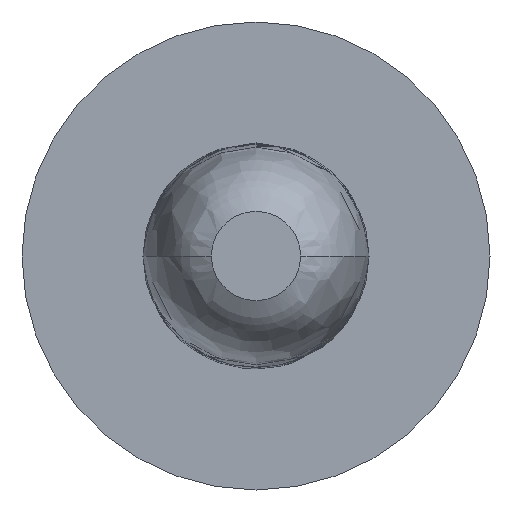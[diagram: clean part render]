
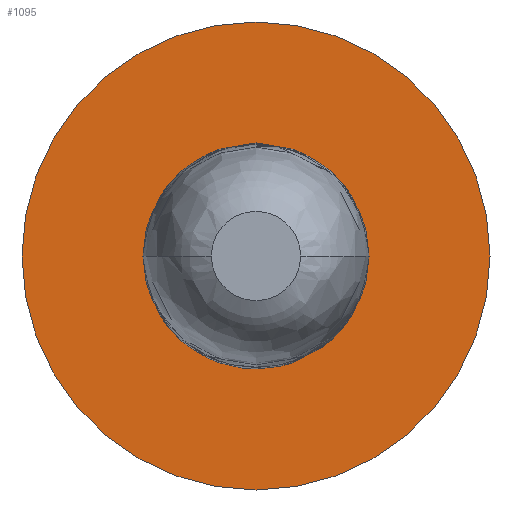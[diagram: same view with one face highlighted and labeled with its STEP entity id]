
A CAD part, front view. The second image highlights one B-rep face of the part: STEP entity #1095.
In plain terms, the highlighted planar face has unit normal (0, -1, 0).
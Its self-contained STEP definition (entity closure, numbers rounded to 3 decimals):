
#21 = ORIENTED_EDGE ( 'NONE', *, *, #490, .F. ) ;
#102 = EDGE_LOOP ( 'NONE', ( #21, #370 ) ) ;
#119 = DIRECTION ( 'NONE',  ( 0., -1., 0. ) ) ;
#124 = CARTESIAN_POINT ( 'NONE',  ( 875.943, 480.621, 0. ) ) ;
#181 = AXIS2_PLACEMENT_3D ( 'NONE', #979, #483, #361 ) ;
#216 = VERTEX_POINT ( 'NONE', #250 ) ;
#250 = CARTESIAN_POINT ( 'NONE',  ( 875.943, 480.621, 210. ) ) ;
#299 = EDGE_CURVE ( 'NONE', #216, #1171, #1203, .T. ) ;
#335 = VERTEX_POINT ( 'NONE', #628 ) ;
#361 = DIRECTION ( 'NONE',  ( 0., 0., -1. ) ) ;
#370 = ORIENTED_EDGE ( 'NONE', *, *, #1437, .F. ) ;
#387 = DIRECTION ( 'NONE',  ( 0., 0., -1. ) ) ;
#398 = AXIS2_PLACEMENT_3D ( 'NONE', #726, #119, #1236 ) ;
#403 = EDGE_CURVE ( 'NONE', #1171, #216, #1140, .T. ) ;
#483 = DIRECTION ( 'NONE',  ( 0., -1., 0. ) ) ;
#490 = EDGE_CURVE ( 'NONE', #1466, #335, #1602, .T. ) ;
#588 = EDGE_LOOP ( 'NONE', ( #847, #619 ) ) ;
#619 = ORIENTED_EDGE ( 'NONE', *, *, #299, .T. ) ;
#623 = DIRECTION ( 'NONE',  ( 0., -1., 0. ) ) ;
#628 = CARTESIAN_POINT ( 'NONE',  ( 875.943, 480.621, 10. ) ) ;
#652 = DIRECTION ( 'NONE',  ( 0., 0., -1. ) ) ;
#726 = CARTESIAN_POINT ( 'NONE',  ( 875.943, 480.621, 0. ) ) ;
#774 = FACE_OUTER_BOUND ( 'NONE', #588, .T. ) ;
#847 = ORIENTED_EDGE ( 'NONE', *, *, #403, .T. ) ;
#859 = CARTESIAN_POINT ( 'NONE',  ( 875.943, 480.621, -10. ) ) ;
#860 = PLANE ( 'NONE',  #181 ) ;
#946 = CARTESIAN_POINT ( 'NONE',  ( 875.943, 480.621, -210. ) ) ;
#979 = CARTESIAN_POINT ( 'NONE',  ( 865.943, 480.621, 0. ) ) ;
#1095 = ADVANCED_FACE ( 'NONE', ( #774, #1357 ), #860, .T. ) ;
#1140 = CIRCLE ( 'NONE', #1540, 210. ) ;
#1171 = VERTEX_POINT ( 'NONE', #946 ) ;
#1187 = AXIS2_PLACEMENT_3D ( 'NONE', #1389, #1291, #652 ) ;
#1203 = CIRCLE ( 'NONE', #1494, 210. ) ;
#1236 = DIRECTION ( 'NONE',  ( 0., 0., -1. ) ) ;
#1291 = DIRECTION ( 'NONE',  ( 0., -1., 0. ) ) ;
#1355 = DIRECTION ( 'NONE',  ( 0., 0., -1. ) ) ;
#1357 = FACE_BOUND ( 'NONE', #102, .T. ) ;
#1384 = DIRECTION ( 'NONE',  ( 0., -1., 0. ) ) ;
#1389 = CARTESIAN_POINT ( 'NONE',  ( 875.943, 480.621, 0. ) ) ;
#1437 = EDGE_CURVE ( 'NONE', #335, #1466, #1583, .T. ) ;
#1466 = VERTEX_POINT ( 'NONE', #859 ) ;
#1494 = AXIS2_PLACEMENT_3D ( 'NONE', #124, #1384, #387 ) ;
#1540 = AXIS2_PLACEMENT_3D ( 'NONE', #1591, #623, #1355 ) ;
#1583 = CIRCLE ( 'NONE', #398, 10. ) ;
#1591 = CARTESIAN_POINT ( 'NONE',  ( 875.943, 480.621, 0. ) ) ;
#1602 = CIRCLE ( 'NONE', #1187, 10. ) ;
